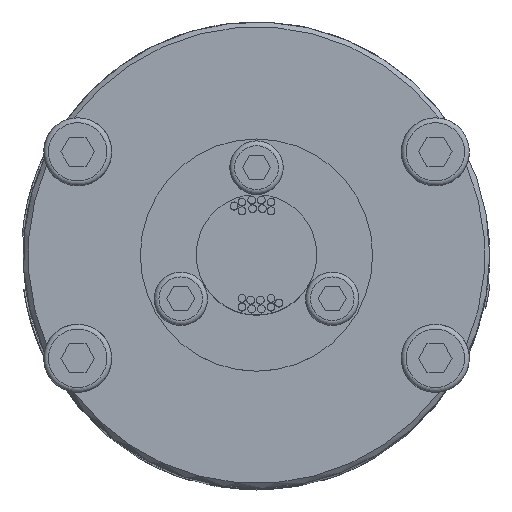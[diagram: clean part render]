
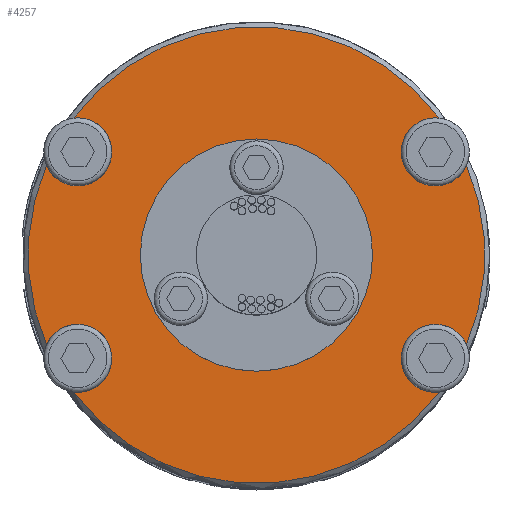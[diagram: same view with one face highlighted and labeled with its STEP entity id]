
A CAD part, top view. The second image highlights one B-rep face of the part: STEP entity #4257.
In plain terms, the highlighted planar face has unit normal (0, 0, 1).
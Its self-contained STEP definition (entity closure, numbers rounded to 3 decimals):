
#719=FACE_BOUND('',#7247,.T.);
#720=FACE_BOUND('',#7248,.T.);
#1108=CIRCLE('',#21206,11.95);
#1109=CIRCLE('',#21208,3.5);
#1110=CIRCLE('',#21209,23.5);
#1111=CIRCLE('',#21210,3.5);
#1112=CIRCLE('',#21211,23.5);
#1113=CIRCLE('',#21212,3.5);
#1114=CIRCLE('',#21213,23.5);
#1115=CIRCLE('',#21214,3.5);
#1116=CIRCLE('',#21215,23.5);
#4257=ADVANCED_FACE('',(#719,#720),#4827,.T.);
#4827=PLANE('',#21216);
#7247=EDGE_LOOP('',(#12891,#12892,#12893,#12894,#12895,#12896,#12897,#12898));
#7248=EDGE_LOOP('',(#12899));
#12891=ORIENTED_EDGE('',*,*,#17794,.F.);
#12892=ORIENTED_EDGE('',*,*,#17795,.T.);
#12893=ORIENTED_EDGE('',*,*,#17796,.F.);
#12894=ORIENTED_EDGE('',*,*,#17797,.T.);
#12895=ORIENTED_EDGE('',*,*,#17798,.F.);
#12896=ORIENTED_EDGE('',*,*,#17799,.T.);
#12897=ORIENTED_EDGE('',*,*,#17800,.F.);
#12898=ORIENTED_EDGE('',*,*,#17801,.T.);
#12899=ORIENTED_EDGE('',*,*,#17793,.F.);
#14988=VERTEX_POINT('',#42241);
#14989=VERTEX_POINT('',#42244);
#14990=VERTEX_POINT('',#42245);
#14991=VERTEX_POINT('',#42247);
#14992=VERTEX_POINT('',#42249);
#14993=VERTEX_POINT('',#42251);
#14994=VERTEX_POINT('',#42253);
#14995=VERTEX_POINT('',#42255);
#14996=VERTEX_POINT('',#42257);
#17793=EDGE_CURVE('',#14988,#14988,#1108,.T.);
#17794=EDGE_CURVE('',#14989,#14990,#1109,.T.);
#17795=EDGE_CURVE('',#14989,#14991,#1110,.T.);
#17796=EDGE_CURVE('',#14992,#14991,#1111,.T.);
#17797=EDGE_CURVE('',#14992,#14993,#1112,.T.);
#17798=EDGE_CURVE('',#14994,#14993,#1113,.T.);
#17799=EDGE_CURVE('',#14994,#14995,#1114,.T.);
#17800=EDGE_CURVE('',#14996,#14995,#1115,.T.);
#17801=EDGE_CURVE('',#14996,#14990,#1116,.T.);
#21206=AXIS2_PLACEMENT_3D('',#42240,#24433,#24434);
#21208=AXIS2_PLACEMENT_3D('',#42243,#24437,#24438);
#21209=AXIS2_PLACEMENT_3D('',#42246,#24439,#24440);
#21210=AXIS2_PLACEMENT_3D('',#42248,#24441,#24442);
#21211=AXIS2_PLACEMENT_3D('',#42250,#24443,#24444);
#21212=AXIS2_PLACEMENT_3D('',#42252,#24445,#24446);
#21213=AXIS2_PLACEMENT_3D('',#42254,#24447,#24448);
#21214=AXIS2_PLACEMENT_3D('',#42256,#24449,#24450);
#21215=AXIS2_PLACEMENT_3D('',#42258,#24451,#24452);
#21216=AXIS2_PLACEMENT_3D('',#42259,#24453,#24454);
#24433=DIRECTION('',(0.,0.,1.));
#24434=DIRECTION('',(0.,1.,0.));
#24437=DIRECTION('',(0.,0.,1.));
#24438=DIRECTION('',(1.,0.,0.));
#24439=DIRECTION('',(0.,0.,1.));
#24440=DIRECTION('',(1.,0.,0.));
#24441=DIRECTION('',(0.,0.,1.));
#24442=DIRECTION('',(1.,0.,0.));
#24443=DIRECTION('',(0.,0.,1.));
#24444=DIRECTION('',(1.,0.,0.));
#24445=DIRECTION('',(0.,0.,1.));
#24446=DIRECTION('',(1.,0.,0.));
#24447=DIRECTION('',(0.,0.,1.));
#24448=DIRECTION('',(1.,0.,0.));
#24449=DIRECTION('',(0.,0.,1.));
#24450=DIRECTION('',(1.,0.,0.));
#24451=DIRECTION('',(0.,0.,1.));
#24452=DIRECTION('',(1.,0.,0.));
#24453=DIRECTION('',(0.,0.,1.));
#24454=DIRECTION('',(1.,0.,0.));
#42240=CARTESIAN_POINT('',(0.,0.,114.));
#42241=CARTESIAN_POINT('',(0.,11.95,114.));
#42243=CARTESIAN_POINT('',(18.403,10.625,114.));
#42244=CARTESIAN_POINT('',(18.798,14.103,114.));
#42245=CARTESIAN_POINT('',(21.612,9.228,114.));
#42246=CARTESIAN_POINT('',(0.,0.,114.));
#42247=CARTESIAN_POINT('',(-18.798,14.103,114.));
#42248=CARTESIAN_POINT('',(-18.403,10.625,114.));
#42249=CARTESIAN_POINT('',(-21.612,9.228,114.));
#42250=CARTESIAN_POINT('',(0.,0.,114.));
#42251=CARTESIAN_POINT('',(-21.612,-9.228,114.));
#42252=CARTESIAN_POINT('',(-18.403,-10.625,114.));
#42253=CARTESIAN_POINT('',(-18.798,-14.103,114.));
#42254=CARTESIAN_POINT('',(0.,0.,114.));
#42255=CARTESIAN_POINT('',(18.798,-14.103,114.));
#42256=CARTESIAN_POINT('',(18.403,-10.625,114.));
#42257=CARTESIAN_POINT('',(21.612,-9.228,114.));
#42258=CARTESIAN_POINT('',(0.,0.,114.));
#42259=CARTESIAN_POINT('',(0.,0.,114.));
